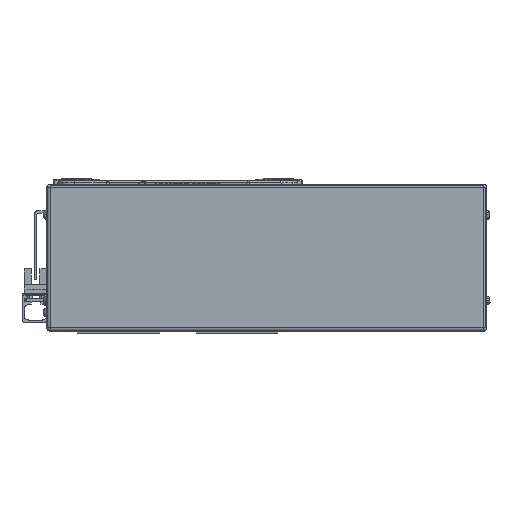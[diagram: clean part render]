
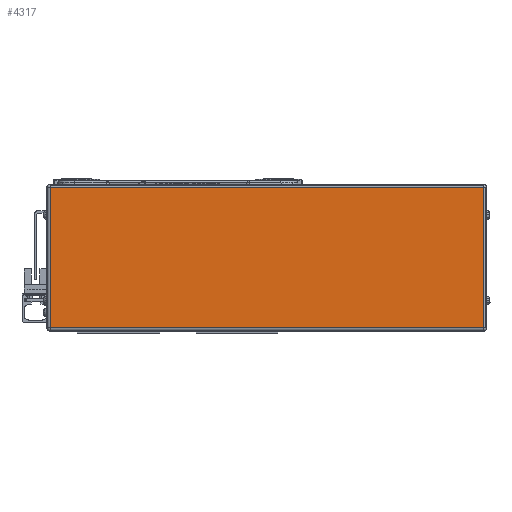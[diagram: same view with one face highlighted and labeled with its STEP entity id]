
A CAD part, left-side view. The second image highlights one B-rep face of the part: STEP entity #4317.
In plain terms, the highlighted planar face has unit normal (-1, 0, 0).
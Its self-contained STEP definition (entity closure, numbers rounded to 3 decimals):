
#4317=ADVANCED_FACE('',(#10293),#10294,.T.);
#10293=FACE_OUTER_BOUND('',#18465,.T.);
#10294=PLANE('',#18466);
#18465=EDGE_LOOP('',(#31440,#31441,#31442,#31443));
#18466=AXIS2_PLACEMENT_3D('',#31444,#31445,#31446);
#31440=ORIENTED_EDGE('',*,*,#51785,.F.);
#31441=ORIENTED_EDGE('',*,*,#51786,.F.);
#31442=ORIENTED_EDGE('',*,*,#49845,.F.);
#31443=ORIENTED_EDGE('',*,*,#50234,.F.);
#31444=CARTESIAN_POINT('',(-45.,-180.5,0.));
#31445=DIRECTION('',(-1.0,0.,0.));
#31446=DIRECTION('',(0.,0.,1.0));
#49845=EDGE_CURVE('',#59934,#59936,#59937,.T.);
#50234=EDGE_CURVE('',#60609,#59934,#60611,.T.);
#51785=EDGE_CURVE('',#63141,#60609,#63142,.T.);
#51786=EDGE_CURVE('',#59936,#63141,#63143,.T.);
#59934=VERTEX_POINT('',#73882);
#59936=VERTEX_POINT('',#73884);
#59937=LINE('',#73885,#73886);
#60609=VERTEX_POINT('',#74757);
#60611=LINE('',#74759,#74760);
#63141=VERTEX_POINT('',#78152);
#63142=LINE('',#78153,#78154);
#63143=LINE('',#78155,#78156);
#73882=CARTESIAN_POINT('',(-45.,74.5,-41.));
#73884=CARTESIAN_POINT('',(-45.,74.5,41.));
#73885=CARTESIAN_POINT('',(-45.,74.5,0.));
#73886=VECTOR('',#90328,10.0);
#74757=CARTESIAN_POINT('',(-45.,-178.5,-41.));
#74759=CARTESIAN_POINT('',(-45.,-180.5,-41.));
#74760=VECTOR('',#90918,10.0);
#78152=CARTESIAN_POINT('',(-45.,-178.5,41.));
#78153=CARTESIAN_POINT('',(-45.,-178.5,0.));
#78154=VECTOR('',#93043,10.0);
#78155=CARTESIAN_POINT('',(-45.,-180.5,41.));
#78156=VECTOR('',#93044,10.0);
#90328=DIRECTION('',(0.,0.,1.0));
#90918=DIRECTION('',(0.,1.0,0.));
#93043=DIRECTION('',(0.,0.,-1.0));
#93044=DIRECTION('',(0.,-1.0,0.));
